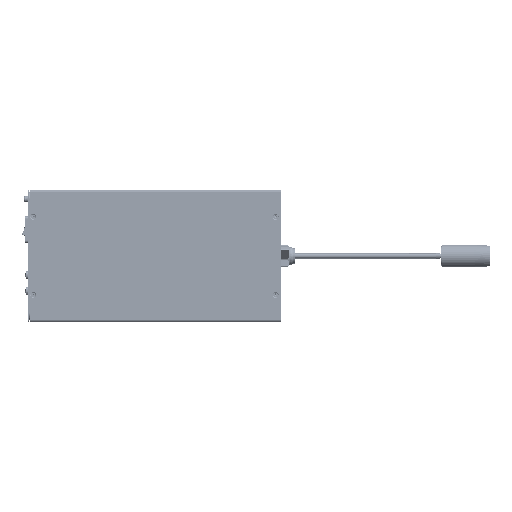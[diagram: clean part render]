
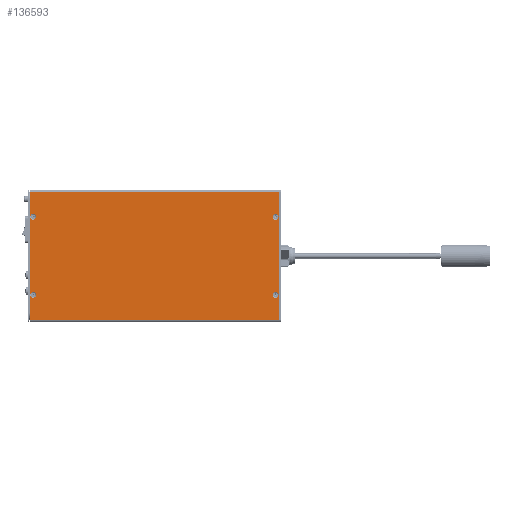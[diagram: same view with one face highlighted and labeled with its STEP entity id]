
A CAD part, top view. The second image highlights one B-rep face of the part: STEP entity #136593.
In plain terms, the highlighted planar face has unit normal (0, 0, 1).
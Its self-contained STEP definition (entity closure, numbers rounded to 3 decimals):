
#21264=DIRECTION('',(0.,-1.,0.));
#21265=VECTOR('',#21264,147.5);
#21266=CARTESIAN_POINT('',(-143.8,73.75,148.));
#21267=LINE('',#21266,#21265);
#21268=DIRECTION('',(0.,1.,0.));
#21269=VECTOR('',#21268,147.5);
#21270=CARTESIAN_POINT('',(143.8,-73.75,148.));
#21271=LINE('',#21270,#21269);
#21277=CARTESIAN_POINT('',(-139.8,-45.,148.));
#21278=DIRECTION('',(0.,0.,-1.));
#21279=DIRECTION('',(1.,0.,0.));
#21280=AXIS2_PLACEMENT_3D('',#21277,#21278,#21279);
#21299=CARTESIAN_POINT('',(-139.8,-45.,148.));
#21300=DIRECTION('',(0.,0.,-1.));
#21301=DIRECTION('',(-1.,0.,0.));
#21302=AXIS2_PLACEMENT_3D('',#21299,#21300,#21301);
#21639=CARTESIAN_POINT('',(-139.8,45.,148.));
#21640=DIRECTION('',(0.,0.,-1.));
#21641=DIRECTION('',(1.,0.,0.));
#21642=AXIS2_PLACEMENT_3D('',#21639,#21640,#21641);
#21661=CARTESIAN_POINT('',(-139.8,45.,148.));
#21662=DIRECTION('',(0.,0.,-1.));
#21663=DIRECTION('',(-1.,0.,0.));
#21664=AXIS2_PLACEMENT_3D('',#21661,#21662,#21663);
#22023=CARTESIAN_POINT('',(139.8,45.,148.));
#22024=DIRECTION('',(0.,0.,-1.));
#22025=DIRECTION('',(-1.,0.,0.));
#22026=AXIS2_PLACEMENT_3D('',#22023,#22024,#22025);
#22063=CARTESIAN_POINT('',(139.8,45.,148.));
#22064=DIRECTION('',(0.,0.,-1.));
#22065=DIRECTION('',(1.,0.,0.));
#22066=AXIS2_PLACEMENT_3D('',#22063,#22064,#22065);
#22403=CARTESIAN_POINT('',(139.8,-45.,148.));
#22404=DIRECTION('',(0.,0.,-1.));
#22405=DIRECTION('',(-1.,0.,0.));
#22406=AXIS2_PLACEMENT_3D('',#22403,#22404,#22405);
#22425=CARTESIAN_POINT('',(139.8,-45.,148.));
#22426=DIRECTION('',(0.,0.,-1.));
#22427=DIRECTION('',(1.,0.,0.));
#22428=AXIS2_PLACEMENT_3D('',#22425,#22426,#22427);
#22756=DIRECTION('',(1.,0.,0.));
#22757=VECTOR('',#22756,287.6);
#22758=CARTESIAN_POINT('',(-143.8,73.75,148.));
#22759=LINE('',#22758,#22757);
#41267=DIRECTION('',(-1.,0.,0.));
#41268=VECTOR('',#41267,287.6);
#41269=CARTESIAN_POINT('',(143.8,-73.75,148.));
#41270=LINE('',#41269,#41268);
#84214=CARTESIAN_POINT('',(-143.8,-73.75,148.));
#84215=VERTEX_POINT('',#84214);
#84216=CARTESIAN_POINT('',(143.8,-73.75,148.));
#84217=VERTEX_POINT('',#84216);
#84222=CARTESIAN_POINT('',(143.8,73.75,148.));
#84224=VERTEX_POINT('',#84222);
#84230=CARTESIAN_POINT('',(-143.8,73.75,148.));
#84232=VERTEX_POINT('',#84230);
#89344=CARTESIAN_POINT('',(136.45,45.,148.));
#89345=VERTEX_POINT('',#89344);
#89346=CARTESIAN_POINT('',(143.15,45.,148.));
#89347=VERTEX_POINT('',#89346);
#89360=CARTESIAN_POINT('',(136.45,-45.,148.));
#89361=VERTEX_POINT('',#89360);
#89362=CARTESIAN_POINT('',(143.15,-45.,148.));
#89363=VERTEX_POINT('',#89362);
#89380=CARTESIAN_POINT('',(-143.15,45.,148.));
#89381=VERTEX_POINT('',#89380);
#89382=CARTESIAN_POINT('',(-136.45,45.,148.));
#89383=VERTEX_POINT('',#89382);
#89400=CARTESIAN_POINT('',(-143.15,-45.,148.));
#89401=VERTEX_POINT('',#89400);
#89402=CARTESIAN_POINT('',(-136.45,-45.,148.));
#89403=VERTEX_POINT('',#89402);
#136556=CARTESIAN_POINT('',(-143.8,75.75,148.));
#136557=DIRECTION('',(0.,0.,1.));
#136558=DIRECTION('',(1.,0.,0.));
#136559=AXIS2_PLACEMENT_3D('',#136556,#136557,#136558);
#136560=PLANE('',#136559);
#136561=ORIENTED_EDGE('',*,*,#131681,.F.);
#136563=ORIENTED_EDGE('',*,*,#136562,.T.);
#136564=ORIENTED_EDGE('',*,*,#136540,.F.);
#136566=ORIENTED_EDGE('',*,*,#136565,.T.);
#136567=EDGE_LOOP('',(#136561,#136563,#136564,#136566));
#136568=FACE_OUTER_BOUND('',#136567,.F.);
#136570=ORIENTED_EDGE('',*,*,#136569,.F.);
#136572=ORIENTED_EDGE('',*,*,#136571,.F.);
#136573=EDGE_LOOP('',(#136570,#136572));
#136574=FACE_BOUND('',#136573,.F.);
#136576=ORIENTED_EDGE('',*,*,#136575,.F.);
#136578=ORIENTED_EDGE('',*,*,#136577,.F.);
#136579=EDGE_LOOP('',(#136576,#136578));
#136580=FACE_BOUND('',#136579,.F.);
#136582=ORIENTED_EDGE('',*,*,#136581,.F.);
#136584=ORIENTED_EDGE('',*,*,#136583,.F.);
#136585=EDGE_LOOP('',(#136582,#136584));
#136586=FACE_BOUND('',#136585,.F.);
#136588=ORIENTED_EDGE('',*,*,#136587,.F.);
#136590=ORIENTED_EDGE('',*,*,#136589,.F.);
#136591=EDGE_LOOP('',(#136588,#136590));
#136592=FACE_BOUND('',#136591,.F.);
#136593=ADVANCED_FACE('',(#136568,#136574,#136580,#136586,#136592),#136560,.T.);
#21281=CIRCLE('',#21280,3.35);
#21303=CIRCLE('',#21302,3.35);
#21643=CIRCLE('',#21642,3.35);
#21665=CIRCLE('',#21664,3.35);
#22027=CIRCLE('',#22026,3.35);
#22067=CIRCLE('',#22066,3.35);
#22407=CIRCLE('',#22406,3.35);
#22429=CIRCLE('',#22428,3.35);
#131681=EDGE_CURVE('',#84232,#84215,#21267,.T.);
#136540=EDGE_CURVE('',#84217,#84224,#21271,.T.);
#136562=EDGE_CURVE('',#84232,#84224,#22759,.T.);
#136565=EDGE_CURVE('',#84217,#84215,#41270,.T.);
#136569=EDGE_CURVE('',#89383,#89381,#21643,.T.);
#136571=EDGE_CURVE('',#89381,#89383,#21665,.T.);
#136575=EDGE_CURVE('',#89345,#89347,#22027,.T.);
#136577=EDGE_CURVE('',#89347,#89345,#22067,.T.);
#136581=EDGE_CURVE('',#89361,#89363,#22407,.T.);
#136583=EDGE_CURVE('',#89363,#89361,#22429,.T.);
#136587=EDGE_CURVE('',#89403,#89401,#21281,.T.);
#136589=EDGE_CURVE('',#89401,#89403,#21303,.T.);
